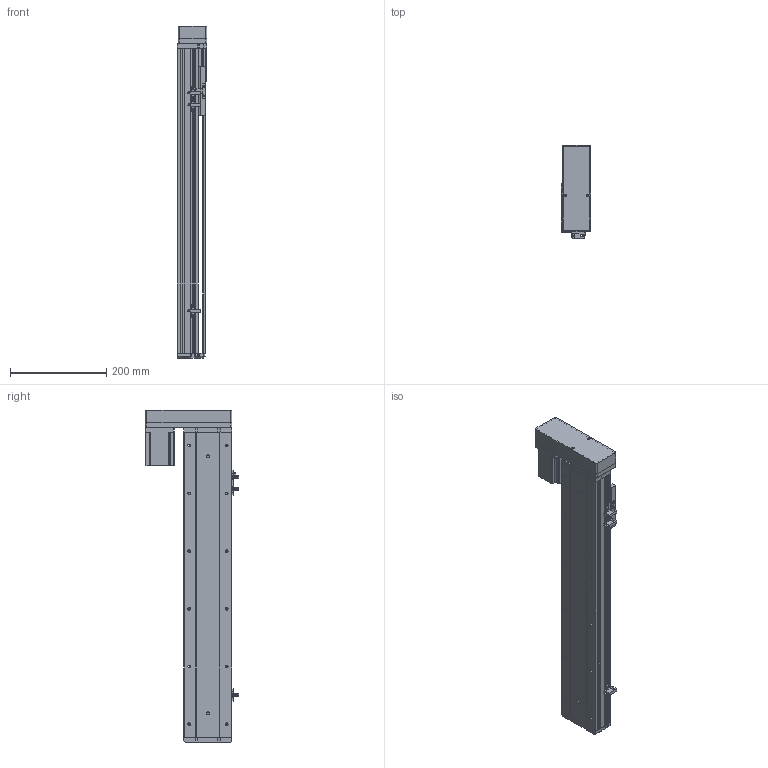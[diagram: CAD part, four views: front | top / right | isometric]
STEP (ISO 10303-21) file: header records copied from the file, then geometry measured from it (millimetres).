
FILE_DESCRIPTION (( 'STEP AP214' ), '1' );
FILE_NAME ('KSD100S-S450-ML-CM.STEP', '2019-08-30T06:09:05', ( '微软用户' ), ( '微软中国' ), 'SwSTEP 2.0', 'SolidWorks 2014', '' );
FILE_SCHEMA (( 'AUTOMOTIVE_DESIGN' ));
Length unit declared in the file: millimetre
Products named in the file (11): KSD100S-S450-ML-CM; 侂狟200W萇儂; 悵誘欶酘衵殏; 100宽马达安装板连板左右折丝杆; U倰嫖萇EEㄜSX672; 覜茼え100遵圉猾敕; 100宽防尘板丝杆450行程; 100遵鎮湛假蚾啣; 100宽滚珠螺姆安装板半封闭; 100遵傷啣; 100宽底板半封闭丝杆450行程
Assembly tree (12 placements, depth 2):
  KSD100S-S450-ML-CM
    100宽底板半封闭丝杆450行程
    100遵傷啣
    100宽滚珠螺姆安装板半封闭
    100遵鎮湛假蚾啣
    100宽防尘板丝杆450行程
    覜茼え100遵圉猾敕
    U倰嫖萇EEㄜSX672  x3
    100宽马达安装板连板左右折丝杆
    悵誘欶酘衵殏
    侂狟200W萇儂
Bounding box: 62 x 193.7 x 690.5 mm (x, y, z)
Volume: 1735025.9 mm3; surface area: 583653.4 mm2
Topology: 13 solids, 13 shells, 1183 faces, 3326 edges, 2121 vertices
Faces by surface type: cylinder 572, plane 500, cone 111
Entity records: 40423 total; most frequent: CARTESIAN_POINT 7605, DIRECTION 5557, ORIENTED_EDGE 5336, EDGE_CURVE 2668, AXIS2_PLACEMENT_3D 2013, VERTEX_POINT 1745, LINE 1531, VECTOR 1531
